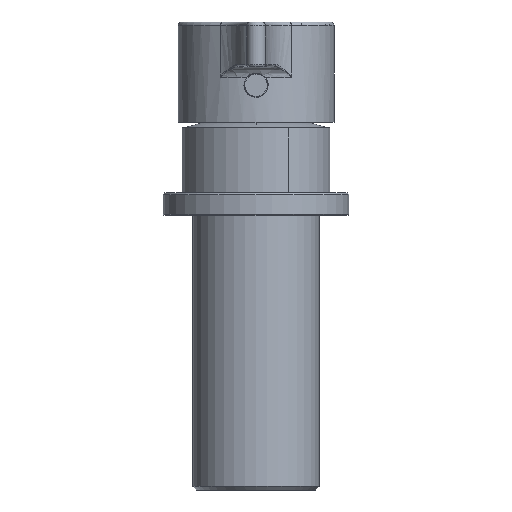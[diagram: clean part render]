
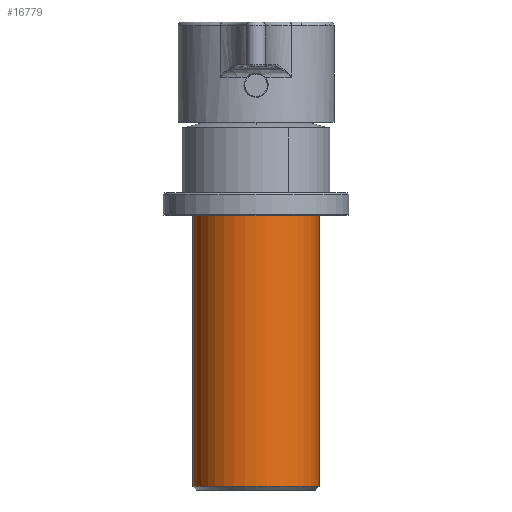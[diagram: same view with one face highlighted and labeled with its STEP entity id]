
A CAD part, front view. The second image highlights one B-rep face of the part: STEP entity #16779.
In plain terms, the highlighted cylindrical face has radius 17 mm (diameter 34 mm), a partial arc.
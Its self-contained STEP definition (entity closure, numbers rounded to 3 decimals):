
#139 = DIRECTION ( 'NONE',  ( 1., 0., 0. ) ) ;
#455 = EDGE_CURVE ( 'NONE', #3473, #10724, #9608, .T. ) ;
#497 = VERTEX_POINT ( 'NONE', #16278 ) ;
#555 = ORIENTED_EDGE ( 'NONE', *, *, #13897, .T. ) ;
#1015 = DIRECTION ( 'NONE',  ( 0., 0., -1. ) ) ;
#1111 = AXIS2_PLACEMENT_3D ( 'NONE', #1437, #9589, #139 ) ;
#1296 = EDGE_CURVE ( 'NONE', #3473, #10085, #3631, .T. ) ;
#1437 = CARTESIAN_POINT ( 'NONE',  ( 0., 0., 1. ) ) ;
#2486 = CIRCLE ( 'NONE', #1111, 17. ) ;
#3473 = VERTEX_POINT ( 'NONE', #17223 ) ;
#3602 = CYLINDRICAL_SURFACE ( 'NONE', #10171, 17. ) ;
#3631 = CIRCLE ( 'NONE', #5592, 17. ) ;
#3691 = DIRECTION ( 'NONE',  ( 0., 0., -1. ) ) ;
#3772 = DIRECTION ( 'NONE',  ( -1., 0., 0. ) ) ;
#3956 = CARTESIAN_POINT ( 'NONE',  ( 17., 0., 1. ) ) ;
#4159 = VECTOR ( 'NONE', #9786, 1000. ) ;
#4203 = ORIENTED_EDGE ( 'NONE', *, *, #16818, .T. ) ;
#4776 = CARTESIAN_POINT ( 'NONE',  ( -17., 0., 74. ) ) ;
#5592 = AXIS2_PLACEMENT_3D ( 'NONE', #7587, #16828, #14270 ) ;
#7334 = VECTOR ( 'NONE', #1015, 1000. ) ;
#7587 = CARTESIAN_POINT ( 'NONE',  ( 0., 0., 74. ) ) ;
#7661 = LINE ( 'NONE', #10564, #7334 ) ;
#9589 = DIRECTION ( 'NONE',  ( 0., 0., 1. ) ) ;
#9608 = LINE ( 'NONE', #16548, #4159 ) ;
#9786 = DIRECTION ( 'NONE',  ( 0., 0., -1. ) ) ;
#10085 = VERTEX_POINT ( 'NONE', #4776 ) ;
#10171 = AXIS2_PLACEMENT_3D ( 'NONE', #14430, #3691, #3772 ) ;
#10564 = CARTESIAN_POINT ( 'NONE',  ( -17., 0., 70. ) ) ;
#10724 = VERTEX_POINT ( 'NONE', #3956 ) ;
#12798 = ORIENTED_EDGE ( 'NONE', *, *, #455, .F. ) ;
#13897 = EDGE_CURVE ( 'NONE', #497, #10724, #2486, .T. ) ;
#14270 = DIRECTION ( 'NONE',  ( -1., 0., 0. ) ) ;
#14430 = CARTESIAN_POINT ( 'NONE',  ( 0., 0., 70. ) ) ;
#15040 = ORIENTED_EDGE ( 'NONE', *, *, #1296, .T. ) ;
#16016 = FACE_OUTER_BOUND ( 'NONE', #16183, .T. ) ;
#16183 = EDGE_LOOP ( 'NONE', ( #12798, #15040, #4203, #555 ) ) ;
#16278 = CARTESIAN_POINT ( 'NONE',  ( -17., 0., 1. ) ) ;
#16548 = CARTESIAN_POINT ( 'NONE',  ( 17., 0., 70. ) ) ;
#16779 = ADVANCED_FACE ( 'NONE', ( #16016 ), #3602, .T. ) ;
#16818 = EDGE_CURVE ( 'NONE', #10085, #497, #7661, .T. ) ;
#16828 = DIRECTION ( 'NONE',  ( 0., 0., -1. ) ) ;
#17223 = CARTESIAN_POINT ( 'NONE',  ( 17., 0., 74. ) ) ;
